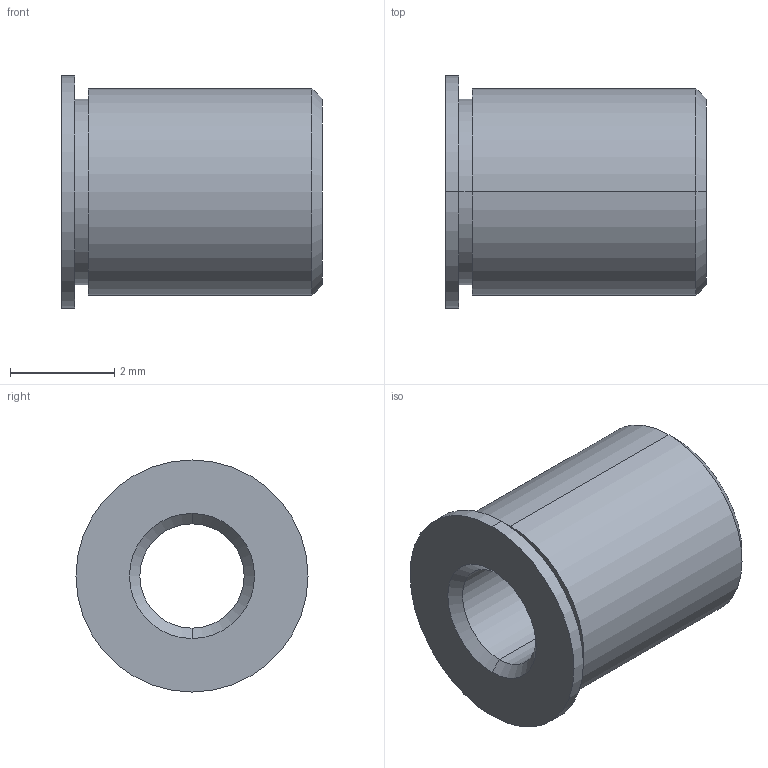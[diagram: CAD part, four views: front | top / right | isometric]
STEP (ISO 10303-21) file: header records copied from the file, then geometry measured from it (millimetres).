
FILE_DESCRIPTION (( 'STEP AP214' ), '1' );
FILE_NAME ('TB2-20-05.STEP', '2014-09-04T12:35:14', ( 'workpc' ), ( 'Microsoft' ), 'SwSTEP 2.0', 'SolidWorks 2013', '' );
FILE_SCHEMA (( 'AUTOMOTIVE_DESIGN' ));
Length unit declared in the file: millimetre
Products named in the file (1): TB2-20-05
Bounding box: 5 x 4.45 x 4.45 mm (x, y, z)
Volume: 45.6 mm3; surface area: 120.4 mm2
Topology: 1 solids, 1 shells, 18 faces, 36 edges, 22 vertices
Faces by surface type: cylinder 8, cone 6, plane 4
Entity records: 534 total; most frequent: DIRECTION 96, CARTESIAN_POINT 77, ORIENTED_EDGE 72, AXIS2_PLACEMENT_3D 41, EDGE_CURVE 36, EDGE_LOOP 22, CIRCLE 22, VERTEX_POINT 22
